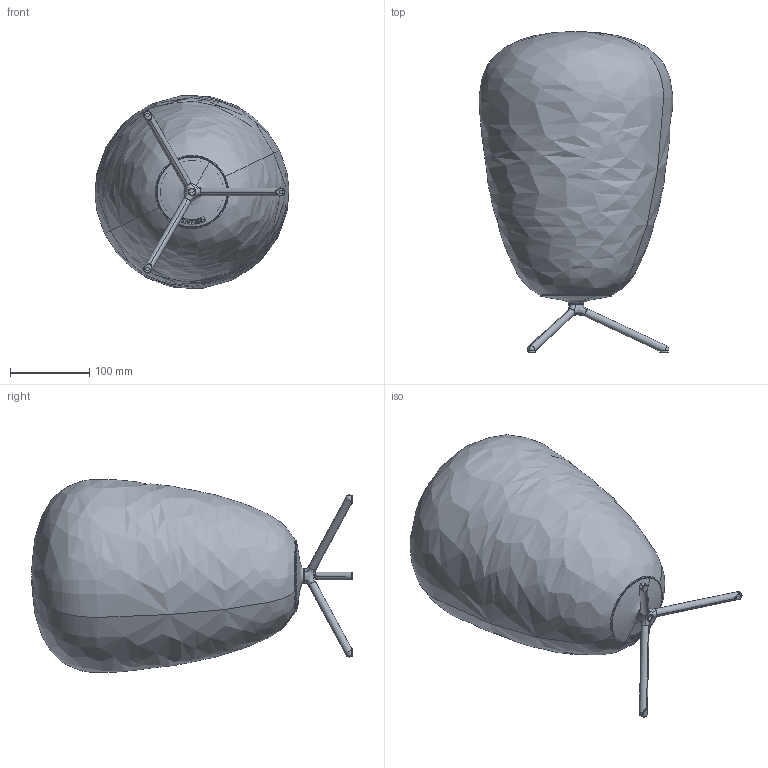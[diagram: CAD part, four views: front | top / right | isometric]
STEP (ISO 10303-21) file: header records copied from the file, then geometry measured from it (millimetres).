
FILE_DESCRIPTION (( 'STEP AP214' ), '1' );
FILE_NAME ('244_1_T_PL_2D.STEP', '2021-04-28T15:30:18', ( '' ), ( '' ), 'SwSTEP 2.0', 'SolidWorks 2021', '' );
FILE_SCHEMA (( 'AUTOMOTIVE_DESIGN' ));
Length unit declared in the file: millimetre
Products named in the file (1): 244_1_T_PL_2D
Bounding box: 244.08 x 403.76 x 243.27 mm (x, y, z)
Volume: 1252575.2 mm3; surface area: 513110 mm2
Topology: 7 solids, 7 shells, 545 faces, 1302 edges, 746 vertices
Faces by surface type: bspline 162, plane 141, cylinder 124, torus 52, sphere 40, cone 26
Entity records: 33714 total; most frequent: CARTESIAN_POINT 16647, ORIENTED_EDGE 2500, DIRECTION 1995, EDGE_CURVE 1250, AXIS2_PLACEMENT_3D 822, VERTEX_POINT 746, EDGE_LOOP 578, UNCERTAINTY_MEASURE_WITH_UNIT 554
